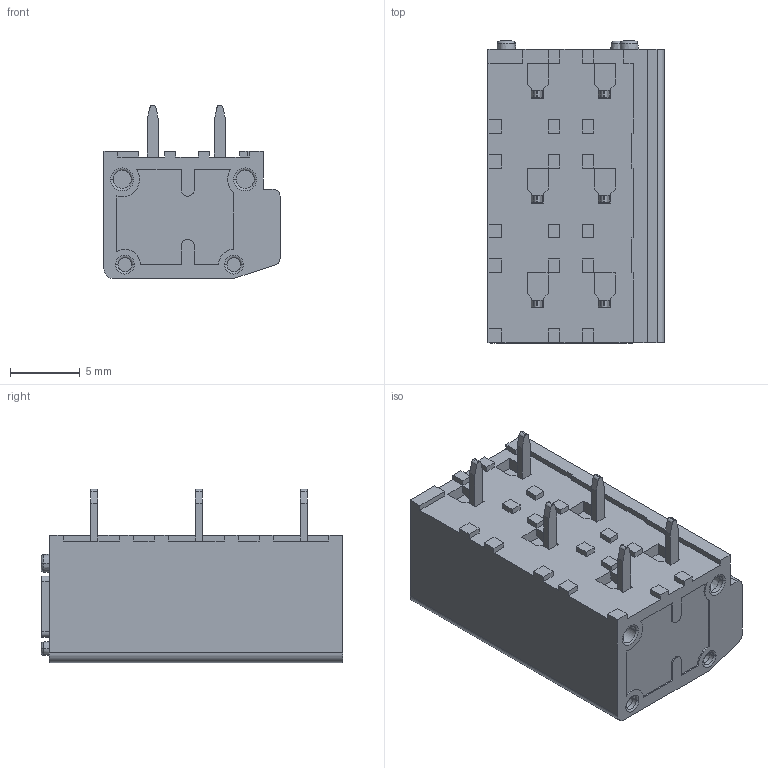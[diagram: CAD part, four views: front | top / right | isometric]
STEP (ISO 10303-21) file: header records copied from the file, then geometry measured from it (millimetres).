
FILE_DESCRIPTION((''),'2;1');
FILE_NAME('333','2019-04-15T',('zhenbing.lai'),(''),'CREO PARAMETRIC BY PTC INC, 2016260','CREO PARAMETRIC BY PTC INC, 2016260','');
FILE_SCHEMA(('CONFIG_CONTROL_DESIGN'));
Length unit declared in the file: millimetre
Products named in the file (1): 333
Bounding box: 12.6 x 21.6 x 12.4 mm (x, y, z)
Volume: 2078.1 mm3; surface area: 1567.7 mm2
Topology: 1 solids, 4 shells, 438 faces, 1177 edges, 773 vertices
Faces by surface type: plane 328, cylinder 72, torus 26, bspline 12
Entity records: 14056 total; most frequent: CARTESIAN_POINT 2878, ORIENTED_EDGE 2354, DIRECTION 2263, EDGE_CURVE 1177, VECTOR 893, LINE 893, VERTEX_POINT 773, AXIS2_PLACEMENT_3D 685
